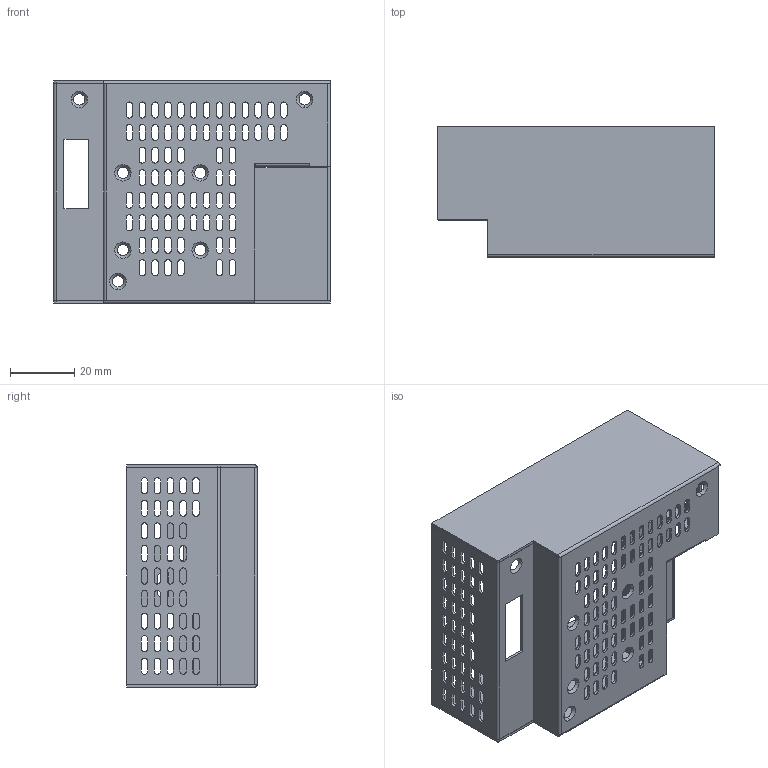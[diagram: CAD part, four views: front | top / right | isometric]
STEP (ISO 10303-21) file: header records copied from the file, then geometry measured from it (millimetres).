
FILE_DESCRIPTION((''),'2;1');
FILE_NAME('HDP-WPB70HCU3K-TX-0001_ASM','2023-12-01T15:07:59',('admin'),(''),'CREO PARAMETRIC BY PTC INC, 2022073','CREO PARAMETRIC BY PTC INC, 2022073','');
FILE_SCHEMA(('CONFIG_CONTROL_DESIGN','SHAPE_APPEARANCE_LAYERS_GROUPS'));
Length unit declared in the file: millimetre
Products named in the file (4): DK-G_54_1; DK-G_54_2; DK-G_54_ASM; HDP-WPB70HCU3K-TX-0001_ASM
Assembly tree (3 placements, depth 3):
  HDP-WPB70HCU3K-TX-0001_ASM
    DK-G_54_ASM
      DK-G_54_1
      DK-G_54_2
Bounding box: 86 x 40.5 x 69 mm (x, y, z)
Volume: 12626.2 mm3; surface area: 33948.6 mm2
Topology: 2 solids, 2 shells, 678 faces, 2425 edges, 1861 vertices
Faces by surface type: plane 366, cylinder 298, cone 14
Entity records: 34492 total; most frequent: CARTESIAN_POINT 4758, DIRECTION 4745, ORIENTED_EDGE 4630, PRESENTATION_STYLE_ASSIGNMENT 2432, STYLED_ITEM 2432, CURVE_STYLE 2430, EDGE_CURVE 2315, VERTEX_POINT 1641
